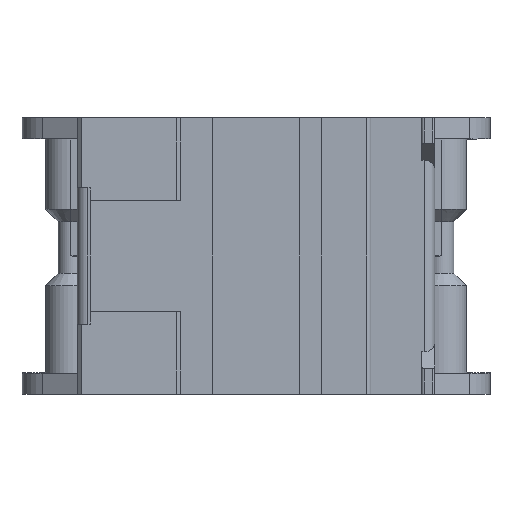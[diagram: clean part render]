
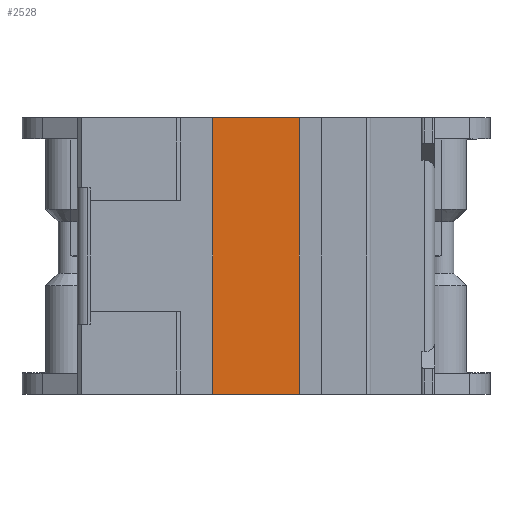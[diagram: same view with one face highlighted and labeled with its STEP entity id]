
A CAD part, front view. The second image highlights one B-rep face of the part: STEP entity #2528.
In plain terms, the highlighted planar face has unit normal (0, -1, 0).
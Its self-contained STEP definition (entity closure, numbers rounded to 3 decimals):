
#232=PLANE('',#2733);
#351=FACE_OUTER_BOUND('',#476,.T.);
#476=EDGE_LOOP('',(#2363,#2364,#2365,#2366));
#561=LINE('',#3598,#844);
#684=LINE('',#3903,#967);
#758=LINE('',#4088,#1041);
#760=LINE('',#4094,#1043);
#844=VECTOR('',#2900,10.);
#967=VECTOR('',#3169,10.);
#1041=VECTOR('',#3365,10.);
#1043=VECTOR('',#3375,10.);
#1190=VERTEX_POINT('',#3595);
#1191=VERTEX_POINT('',#3597);
#1293=VERTEX_POINT('',#3900);
#1294=VERTEX_POINT('',#3902);
#1435=EDGE_CURVE('',#1190,#1191,#561,.T.);
#1587=EDGE_CURVE('',#1293,#1294,#684,.T.);
#1677=EDGE_CURVE('',#1191,#1293,#758,.T.);
#1679=EDGE_CURVE('',#1294,#1190,#760,.T.);
#2363=ORIENTED_EDGE('',*,*,#1587,.F.);
#2364=ORIENTED_EDGE('',*,*,#1677,.F.);
#2365=ORIENTED_EDGE('',*,*,#1435,.F.);
#2366=ORIENTED_EDGE('',*,*,#1679,.F.);
#2528=ADVANCED_FACE('',(#351),#232,.F.);
#2733=AXIS2_PLACEMENT_3D('',#4093,#3373,#3374);
#2900=DIRECTION('',(1.,0.,0.));
#3169=DIRECTION('',(-1.,0.,0.));
#3365=DIRECTION('',(0.,0.,-1.));
#3373=DIRECTION('center_axis',(0.,1.,0.));
#3374=DIRECTION('ref_axis',(1.,0.,0.));
#3375=DIRECTION('',(0.,0.,1.));
#3595=CARTESIAN_POINT('',(-13.,-31.,32.5));
#3597=CARTESIAN_POINT('',(13.,-31.,32.5));
#3598=CARTESIAN_POINT('',(-6.5,-31.,32.5));
#3900=CARTESIAN_POINT('',(13.,-31.,-32.5));
#3902=CARTESIAN_POINT('',(-13.,-31.,-32.5));
#3903=CARTESIAN_POINT('',(6.5,-31.,-32.5));
#4088=CARTESIAN_POINT('',(13.,-31.,-27.5));
#4093=CARTESIAN_POINT('Origin',(-13.,-31.,-27.5));
#4094=CARTESIAN_POINT('',(-13.,-31.,-27.5));
